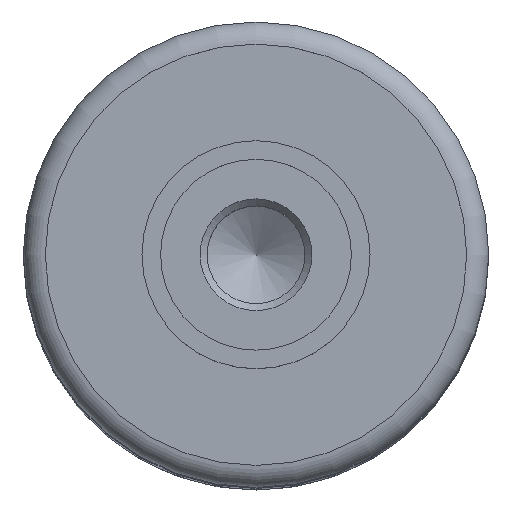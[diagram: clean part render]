
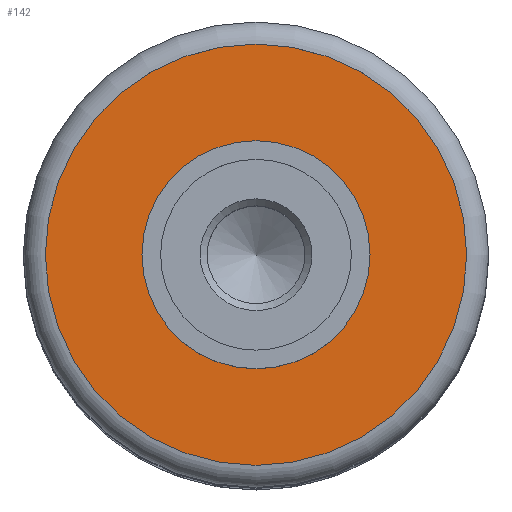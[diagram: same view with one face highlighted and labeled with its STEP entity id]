
A CAD part, top view. The second image highlights one B-rep face of the part: STEP entity #142.
In plain terms, the highlighted planar face has unit normal (0, 0, 1).
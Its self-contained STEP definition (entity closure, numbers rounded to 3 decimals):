
#142=ADVANCED_FACE('',(#261,#262),#263,.T.);
#261=FACE_BOUND('',#374,.T.);
#262=FACE_OUTER_BOUND('',#375,.T.);
#263=PLANE('',#376);
#374=EDGE_LOOP('',(#517));
#375=EDGE_LOOP('',(#518));
#376=AXIS2_PLACEMENT_3D('',#519,#520,#521);
#517=ORIENTED_EDGE('',*,*,#603,.F.);
#518=ORIENTED_EDGE('',*,*,#605,.T.);
#519=CARTESIAN_POINT('',(0.0,0.0,30.2));
#520=DIRECTION('',(0.0,0.0,1.0));
#521=DIRECTION('',(1.0,0.0,0.0));
#603=EDGE_CURVE('',#677,#677,#678,.T.);
#605=EDGE_CURVE('',#680,#680,#681,.T.);
#677=VERTEX_POINT('',#916);
#678=CIRCLE('',#917,4.9);
#680=VERTEX_POINT('',#919);
#681=CIRCLE('',#920,9.05);
#916=CARTESIAN_POINT('',(4.9,0.0,30.2));
#917=AXIS2_PLACEMENT_3D('',#993,#994,#995);
#919=CARTESIAN_POINT('',(9.05,0.0,30.2));
#920=AXIS2_PLACEMENT_3D('',#996,#997,#998);
#993=CARTESIAN_POINT('',(0.0,0.0,30.2));
#994=DIRECTION('',(0.0,0.0,1.0));
#995=DIRECTION('',(1.0,0.0,0.0));
#996=CARTESIAN_POINT('',(0.0,0.0,30.2));
#997=DIRECTION('',(0.0,0.0,1.0));
#998=DIRECTION('',(1.0,0.0,0.0));
